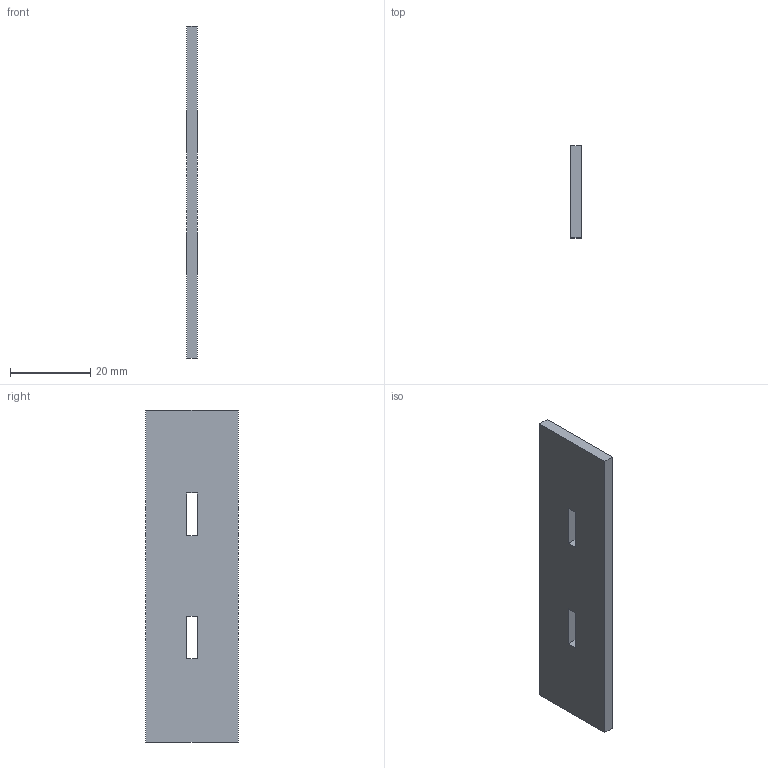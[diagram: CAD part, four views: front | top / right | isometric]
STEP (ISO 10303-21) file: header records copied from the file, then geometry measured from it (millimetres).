
FILE_DESCRIPTION(/* description */ ('STEP AP242 Edition 2','CAx-IF Rec.Pracs.---Representation and Presentation of Product Manufacturing Information (PMI)---4.0---2014-10-13','CAx-IF Rec.Pracs.---3D Tessellated Geometry---0.4---2014-09-14','2;1','CAx-IF Rec.Pracs.---User Defined Attributes---1.5---2016-08-15'),/* implementation_level */ '2;1');
FILE_NAME(/* name */ 'FlexibleBoxPartStudio - InteriorSlide',/* time_stamp */ '2026-02-11T15:49:31Z',/* author */ (''),/* organization */ (''),/* preprocessor_version */ 'ST-DEVELOPER v20',/* originating_system */ 'ONSHAPE BY PTC INC, 1.210',/* authorisation */ ' ');
FILE_SCHEMA (('AP242_MANAGED_MODEL_BASED_3D_ENGINEERING_MIM_LF { 1 0 10303 442 3 1 4 }'));
Length unit declared in the file: metre
Products named in the file (1): InteriorSlide
Bounding box: 2.7 x 23 x 82.8 mm (x, y, z)
Volume: 4991.7 mm3; surface area: 4412.5 mm2
Topology: 1 solids, 1 shells, 14 faces, 36 edges, 24 vertices
Faces by surface type: plane 14
Entity records: 450 total; most frequent: CARTESIAN_POINT 75, ORIENTED_EDGE 72, DIRECTION 66, EDGE_CURVE 36, LINE 36, VECTOR 36, VERTEX_POINT 24, EDGE_LOOP 18
